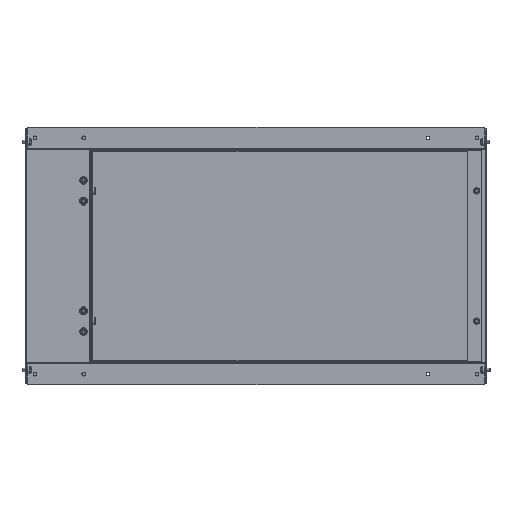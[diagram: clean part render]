
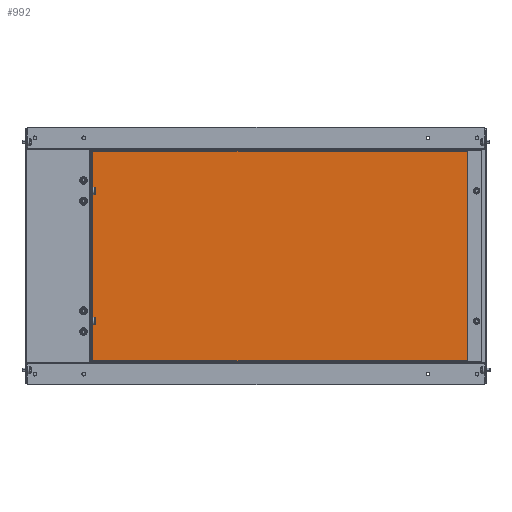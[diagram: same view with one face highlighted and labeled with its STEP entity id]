
A CAD part, left-side view. The second image highlights one B-rep face of the part: STEP entity #992.
In plain terms, the highlighted planar face has unit normal (-1, 0, 0).
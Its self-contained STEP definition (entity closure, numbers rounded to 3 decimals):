
#3 = CARTESIAN_POINT ( 'NONE',  ( 75.411, 78.852, -330.697 ) ) ;
#204 = DIRECTION ( 'NONE',  ( 0., 0., -1. ) ) ;
#250 = CARTESIAN_POINT ( 'NONE',  ( 75.411, -208.898, -651.697 ) ) ;
#664 = ORIENTED_EDGE ( 'NONE', *, *, #11064, .T. ) ;
#992 = ADVANCED_FACE ( 'NONE', ( #4313 ), #10175, .T. ) ;
#1786 = VECTOR ( 'NONE', #204, 1000. ) ;
#2156 = EDGE_CURVE ( 'NONE', #12699, #12279, #10748, .T. ) ;
#2702 = VERTEX_POINT ( 'NONE', #250 ) ;
#3584 = ORIENTED_EDGE ( 'NONE', *, *, #8255, .T. ) ;
#3804 = CARTESIAN_POINT ( 'NONE',  ( 75.411, 78.852, -651.697 ) ) ;
#4216 = DIRECTION ( 'NONE',  ( 0., -1., 0. ) ) ;
#4313 = FACE_OUTER_BOUND ( 'NONE', #19286, .T. ) ;
#5073 = LINE ( 'NONE', #17781, #14454 ) ;
#5179 = ORIENTED_EDGE ( 'NONE', *, *, #6210, .T. ) ;
#6210 = EDGE_CURVE ( 'NONE', #2702, #12699, #5073, .T. ) ;
#6550 = CARTESIAN_POINT ( 'NONE',  ( 75.411, 78.852, -491.197 ) ) ;
#8255 = EDGE_CURVE ( 'NONE', #25111, #2702, #12866, .T. ) ;
#8433 = LINE ( 'NONE', #10933, #1786 ) ;
#10175 = PLANE ( 'NONE',  #11491 ) ;
#10748 = LINE ( 'NONE', #3, #12826 ) ;
#10933 = CARTESIAN_POINT ( 'NONE',  ( 75.411, 366.602, -491.197 ) ) ;
#11064 = EDGE_CURVE ( 'NONE', #12279, #25111, #8433, .T. ) ;
#11491 = AXIS2_PLACEMENT_3D ( 'NONE', #6550, #12836, #21355 ) ;
#12279 = VERTEX_POINT ( 'NONE', #24683 ) ;
#12576 = DIRECTION ( 'NONE',  ( 0., 1., 0. ) ) ;
#12699 = VERTEX_POINT ( 'NONE', #20996 ) ;
#12826 = VECTOR ( 'NONE', #12576, 1000. ) ;
#12836 = DIRECTION ( 'NONE',  ( -1., 0., 0. ) ) ;
#12866 = LINE ( 'NONE', #3804, #23554 ) ;
#14454 = VECTOR ( 'NONE', #26157, 1000. ) ;
#17781 = CARTESIAN_POINT ( 'NONE',  ( 75.411, -208.898, -491.197 ) ) ;
#19286 = EDGE_LOOP ( 'NONE', ( #26496, #664, #3584, #5179 ) ) ;
#20996 = CARTESIAN_POINT ( 'NONE',  ( 75.411, -208.898, -330.697 ) ) ;
#21355 = DIRECTION ( 'NONE',  ( 0., 0., 1. ) ) ;
#23554 = VECTOR ( 'NONE', #4216, 1000. ) ;
#24683 = CARTESIAN_POINT ( 'NONE',  ( 75.411, 366.602, -330.697 ) ) ;
#25111 = VERTEX_POINT ( 'NONE', #26140 ) ;
#26140 = CARTESIAN_POINT ( 'NONE',  ( 75.411, 366.602, -651.697 ) ) ;
#26157 = DIRECTION ( 'NONE',  ( 0., 0., 1. ) ) ;
#26496 = ORIENTED_EDGE ( 'NONE', *, *, #2156, .T. ) ;
